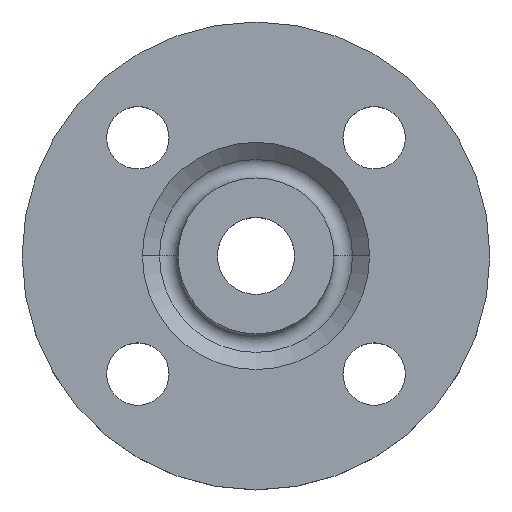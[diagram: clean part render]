
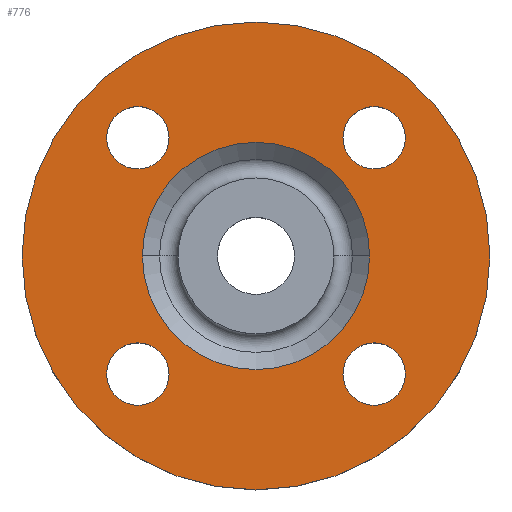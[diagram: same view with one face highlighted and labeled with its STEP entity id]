
A CAD part, top view. The second image highlights one B-rep face of the part: STEP entity #776.
In plain terms, the highlighted planar face has unit normal (0, 0, 1).
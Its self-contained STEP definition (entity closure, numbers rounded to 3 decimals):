
#4 = PLANE ( 'NONE',  #324 ) ;
#10 = CARTESIAN_POINT ( 'NONE',  ( -26.517, -26.517, -2. ) ) ;
#29 = CARTESIAN_POINT ( 'NONE',  ( 26.517, -26.517, -2. ) ) ;
#31 = DIRECTION ( 'NONE',  ( 1., 0., 0. ) ) ;
#44 = CARTESIAN_POINT ( 'NONE',  ( 33.517, 26.517, -2. ) ) ;
#56 = CARTESIAN_POINT ( 'NONE',  ( 0., 0., -2. ) ) ;
#59 = CIRCLE ( 'NONE', #245, 7. ) ;
#63 = FACE_BOUND ( 'NONE', #77, .T. ) ;
#65 = EDGE_LOOP ( 'NONE', ( #726, #295 ) ) ;
#68 = EDGE_CURVE ( 'NONE', #722, #537, #820, .T. ) ;
#71 = DIRECTION ( 'NONE',  ( 0., 0., -1. ) ) ;
#77 = EDGE_LOOP ( 'NONE', ( #336, #403 ) ) ;
#78 = CARTESIAN_POINT ( 'NONE',  ( -19.517, 26.517, -2. ) ) ;
#88 = DIRECTION ( 'NONE',  ( 0., 0., -1. ) ) ;
#90 = EDGE_LOOP ( 'NONE', ( #771, #518 ) ) ;
#93 = ORIENTED_EDGE ( 'NONE', *, *, #116, .T. ) ;
#100 = ORIENTED_EDGE ( 'NONE', *, *, #482, .T. ) ;
#116 = EDGE_CURVE ( 'NONE', #537, #722, #219, .T. ) ;
#125 = FACE_BOUND ( 'NONE', #720, .T. ) ;
#128 = EDGE_CURVE ( 'NONE', #717, #628, #766, .T. ) ;
#136 = CIRCLE ( 'NONE', #491, 25.5 ) ;
#138 = AXIS2_PLACEMENT_3D ( 'NONE', #10, #260, #510 ) ;
#143 = VERTEX_POINT ( 'NONE', #351 ) ;
#147 = CIRCLE ( 'NONE', #320, 7. ) ;
#159 = CARTESIAN_POINT ( 'NONE',  ( 26.517, 26.517, -2. ) ) ;
#170 = CARTESIAN_POINT ( 'NONE',  ( 33.517, -26.517, -2. ) ) ;
#177 = DIRECTION ( 'NONE',  ( -1., 0., 0. ) ) ;
#178 = CIRCLE ( 'NONE', #138, 7. ) ;
#179 = AXIS2_PLACEMENT_3D ( 'NONE', #288, #539, #802 ) ;
#219 = CIRCLE ( 'NONE', #179, 7. ) ;
#238 = CARTESIAN_POINT ( 'NONE',  ( -25.5, 0., -2. ) ) ;
#245 = AXIS2_PLACEMENT_3D ( 'NONE', #649, #71, #327 ) ;
#247 = DIRECTION ( 'NONE',  ( 0., 0., -1. ) ) ;
#252 = CARTESIAN_POINT ( 'NONE',  ( 52.5, 0., -2. ) ) ;
#256 = CIRCLE ( 'NONE', #624, 52.5 ) ;
#260 = DIRECTION ( 'NONE',  ( 0., 0., -1. ) ) ;
#262 = EDGE_CURVE ( 'NONE', #546, #143, #309, .T. ) ;
#263 = CARTESIAN_POINT ( 'NONE',  ( 26.517, -26.517, -2. ) ) ;
#264 = EDGE_LOOP ( 'NONE', ( #93, #765 ) ) ;
#279 = VERTEX_POINT ( 'NONE', #818 ) ;
#284 = CIRCLE ( 'NONE', #646, 25.5 ) ;
#288 = CARTESIAN_POINT ( 'NONE',  ( -26.517, 26.517, -2. ) ) ;
#295 = ORIENTED_EDGE ( 'NONE', *, *, #262, .F. ) ;
#296 = CARTESIAN_POINT ( 'NONE',  ( 0., 0., -2. ) ) ;
#303 = EDGE_LOOP ( 'NONE', ( #487, #332 ) ) ;
#307 = DIRECTION ( 'NONE',  ( 0., 0., -1. ) ) ;
#309 = CIRCLE ( 'NONE', #635, 52.5 ) ;
#313 = FACE_BOUND ( 'NONE', #303, .T. ) ;
#314 = CARTESIAN_POINT ( 'NONE',  ( 0., 0., -2. ) ) ;
#320 = AXIS2_PLACEMENT_3D ( 'NONE', #823, #247, #496 ) ;
#324 = AXIS2_PLACEMENT_3D ( 'NONE', #252, #504, #768 ) ;
#326 = AXIS2_PLACEMENT_3D ( 'NONE', #344, #604, #31 ) ;
#327 = DIRECTION ( 'NONE',  ( 1., 0., 0. ) ) ;
#332 = ORIENTED_EDGE ( 'NONE', *, *, #631, .T. ) ;
#336 = ORIENTED_EDGE ( 'NONE', *, *, #740, .T. ) ;
#344 = CARTESIAN_POINT ( 'NONE',  ( -26.517, 26.517, -2. ) ) ;
#351 = CARTESIAN_POINT ( 'NONE',  ( 52.5, 0., -2. ) ) ;
#373 = FACE_BOUND ( 'NONE', #90, .T. ) ;
#385 = CIRCLE ( 'NONE', #754, 7. ) ;
#397 = AXIS2_PLACEMENT_3D ( 'NONE', #159, #410, #678 ) ;
#399 = EDGE_CURVE ( 'NONE', #279, #686, #136, .T. ) ;
#403 = ORIENTED_EDGE ( 'NONE', *, *, #128, .T. ) ;
#410 = DIRECTION ( 'NONE',  ( 0., 0., -1. ) ) ;
#422 = CARTESIAN_POINT ( 'NONE',  ( 19.517, -26.517, -2. ) ) ;
#426 = EDGE_CURVE ( 'NONE', #661, #606, #178, .T. ) ;
#431 = CARTESIAN_POINT ( 'NONE',  ( 19.517, 26.517, -2. ) ) ;
#438 = CIRCLE ( 'NONE', #712, 7. ) ;
#454 = EDGE_CURVE ( 'NONE', #606, #661, #59, .T. ) ;
#482 = EDGE_CURVE ( 'NONE', #656, #645, #385, .T. ) ;
#487 = ORIENTED_EDGE ( 'NONE', *, *, #399, .T. ) ;
#489 = CARTESIAN_POINT ( 'NONE',  ( 0., 0., -2. ) ) ;
#491 = AXIS2_PLACEMENT_3D ( 'NONE', #314, #505, #769 ) ;
#496 = DIRECTION ( 'NONE',  ( 1., 0., 0. ) ) ;
#504 = DIRECTION ( 'NONE',  ( 0., 0., 1. ) ) ;
#505 = DIRECTION ( 'NONE',  ( 0., 0., -1. ) ) ;
#510 = DIRECTION ( 'NONE',  ( 1., 0., 0. ) ) ;
#516 = DIRECTION ( 'NONE',  ( 0., 0., -1. ) ) ;
#518 = ORIENTED_EDGE ( 'NONE', *, *, #426, .T. ) ;
#534 = DIRECTION ( 'NONE',  ( 1., 0., 0. ) ) ;
#537 = VERTEX_POINT ( 'NONE', #78 ) ;
#539 = DIRECTION ( 'NONE',  ( 0., 0., -1. ) ) ;
#546 = VERTEX_POINT ( 'NONE', #723 ) ;
#549 = DIRECTION ( 'NONE',  ( 0., 0., -1. ) ) ;
#563 = DIRECTION ( 'NONE',  ( -1., 0., 0. ) ) ;
#568 = EDGE_CURVE ( 'NONE', #645, #656, #438, .T. ) ;
#571 = FACE_OUTER_BOUND ( 'NONE', #65, .T. ) ;
#604 = DIRECTION ( 'NONE',  ( 0., 0., -1. ) ) ;
#606 = VERTEX_POINT ( 'NONE', #673 ) ;
#624 = AXIS2_PLACEMENT_3D ( 'NONE', #56, #307, #563 ) ;
#628 = VERTEX_POINT ( 'NONE', #44 ) ;
#631 = EDGE_CURVE ( 'NONE', #686, #279, #284, .T. ) ;
#632 = CARTESIAN_POINT ( 'NONE',  ( -33.517, 26.517, -2. ) ) ;
#635 = AXIS2_PLACEMENT_3D ( 'NONE', #489, #751, #177 ) ;
#639 = FACE_BOUND ( 'NONE', #264, .T. ) ;
#645 = VERTEX_POINT ( 'NONE', #170 ) ;
#646 = AXIS2_PLACEMENT_3D ( 'NONE', #296, #549, #809 ) ;
#649 = CARTESIAN_POINT ( 'NONE',  ( -26.517, -26.517, -2. ) ) ;
#656 = VERTEX_POINT ( 'NONE', #422 ) ;
#661 = VERTEX_POINT ( 'NONE', #687 ) ;
#673 = CARTESIAN_POINT ( 'NONE',  ( -19.517, -26.517, -2. ) ) ;
#678 = DIRECTION ( 'NONE',  ( 1., 0., 0. ) ) ;
#686 = VERTEX_POINT ( 'NONE', #238 ) ;
#687 = CARTESIAN_POINT ( 'NONE',  ( -33.517, -26.517, -2. ) ) ;
#712 = AXIS2_PLACEMENT_3D ( 'NONE', #29, #88, #534 ) ;
#717 = VERTEX_POINT ( 'NONE', #431 ) ;
#720 = EDGE_LOOP ( 'NONE', ( #786, #100 ) ) ;
#722 = VERTEX_POINT ( 'NONE', #632 ) ;
#723 = CARTESIAN_POINT ( 'NONE',  ( -52.5, 0., -2. ) ) ;
#725 = EDGE_CURVE ( 'NONE', #143, #546, #256, .T. ) ;
#726 = ORIENTED_EDGE ( 'NONE', *, *, #725, .F. ) ;
#740 = EDGE_CURVE ( 'NONE', #628, #717, #147, .T. ) ;
#751 = DIRECTION ( 'NONE',  ( 0., 0., -1. ) ) ;
#754 = AXIS2_PLACEMENT_3D ( 'NONE', #263, #516, #777 ) ;
#765 = ORIENTED_EDGE ( 'NONE', *, *, #68, .T. ) ;
#766 = CIRCLE ( 'NONE', #397, 7. ) ;
#768 = DIRECTION ( 'NONE',  ( 1., 0., 0. ) ) ;
#769 = DIRECTION ( 'NONE',  ( -1., 0., 0. ) ) ;
#771 = ORIENTED_EDGE ( 'NONE', *, *, #454, .T. ) ;
#776 = ADVANCED_FACE ( 'NONE', ( #125, #373, #639, #63, #313, #571 ), #4, .T. ) ;
#777 = DIRECTION ( 'NONE',  ( 1., 0., 0. ) ) ;
#786 = ORIENTED_EDGE ( 'NONE', *, *, #568, .T. ) ;
#802 = DIRECTION ( 'NONE',  ( 1., 0., 0. ) ) ;
#809 = DIRECTION ( 'NONE',  ( -1., 0., 0. ) ) ;
#818 = CARTESIAN_POINT ( 'NONE',  ( 25.5, 0., -2. ) ) ;
#820 = CIRCLE ( 'NONE', #326, 7. ) ;
#823 = CARTESIAN_POINT ( 'NONE',  ( 26.517, 26.517, -2. ) ) ;
